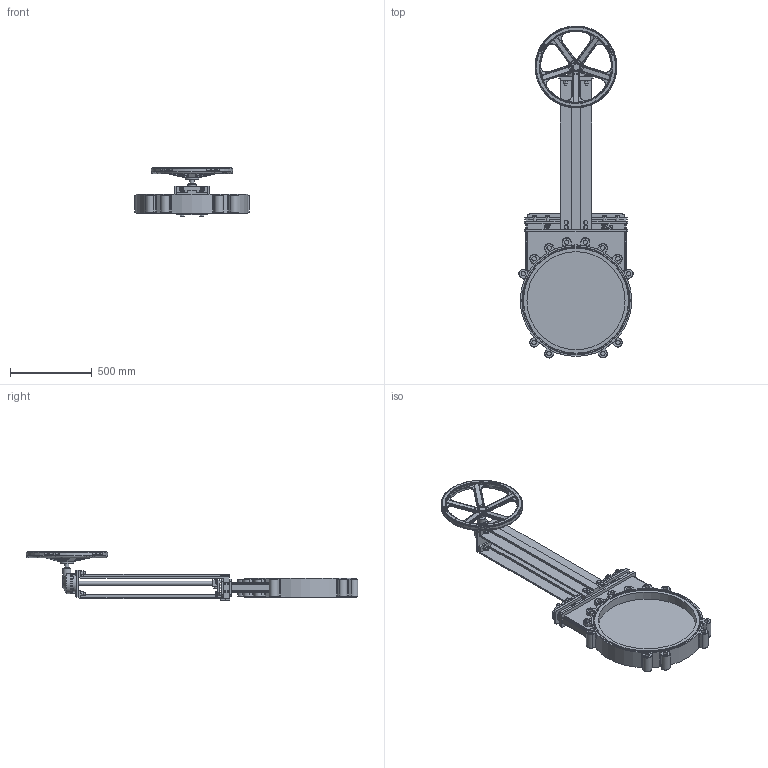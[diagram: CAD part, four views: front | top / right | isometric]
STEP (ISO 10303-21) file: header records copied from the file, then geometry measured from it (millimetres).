
FILE_DESCRIPTION(('STEP AP242'), '1');
FILE_NAME('GVKN1331N-2W-Fb-R Çàäâèæêà øèáåðíàÿ DN.ru Äó600 Ðó10', '2026-05-25T19:59:18', ('DN.ru'), (''), 'C3D Converter', 'C3D Toolkit', '');
FILE_SCHEMA(('AP242_MANAGED_MODEL_BASED_3D_ENGINEERING_MIM_LF { 1 0 10303 442 1 1 4 }'));
Length unit declared in the file: millimetre
Products named in the file (1): GVKN1331N-2W-Fb-R
Bounding box: 700.9 x 2030.95 x 299.43 mm (x, y, z)
Volume: 33021796 mm3; surface area: 3219578.2 mm2
Topology: 1 solids, 1 shells, 2037 faces, 5149 edges, 3214 vertices
Faces by surface type: plane 856, cylinder 436, torus 282, bspline 209, extrusion 145, sphere 59, cone 50
Full cylindrical faces by diameter (mm): 10 x4, 16 x4, 18 x8, 25 x3, 27 x24, 50 x1, 58.333 x1, 83.333 x1, 125 x2, 433.333 x1, 446.667 x1, 486.667 x1, 500 x1, 600 x2, 642 x2, 662 x2, 682 x1
Entity records: 121619 total; most frequent: CARTESIAN_POINT 58389, ORIENTED_EDGE 10072, DIRECTION 8937, EDGE_CURVE 5036, AXIS2_PLACEMENT_3D 3220, VERTEX_POINT 3214, VECTOR 2497, LINE 2352
